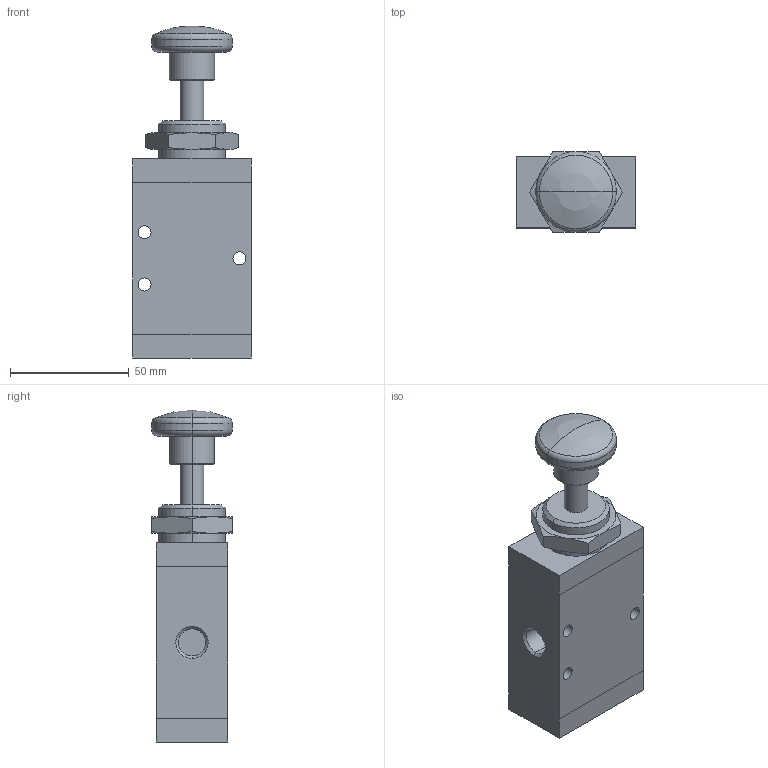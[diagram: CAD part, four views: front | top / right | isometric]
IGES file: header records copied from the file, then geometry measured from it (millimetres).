
Global section: file name: No Iges File Name specified; native system: AutoDesk Inventor R11.0; preprocessor: AutoDesk Inventor Iges Exporter R11.0; author: No Author specified; organization: No Organization specified; date: 20061219.113605; units: millimetre
Bounding box: 50 x 34 x 140 mm (x, y, z)
Volume: 145776.5 mm3; surface area: 26065.8 mm2
Topology: 2 solids, 2 shells, 76 faces, 172 edges, 107 vertices
Faces by surface type: plane 27, bspline 15, revolution 12, cylinder 8, cone 8, torus 4, sphere 2
